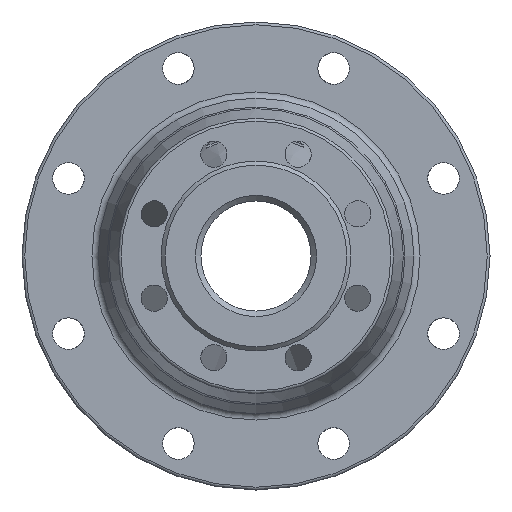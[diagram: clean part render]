
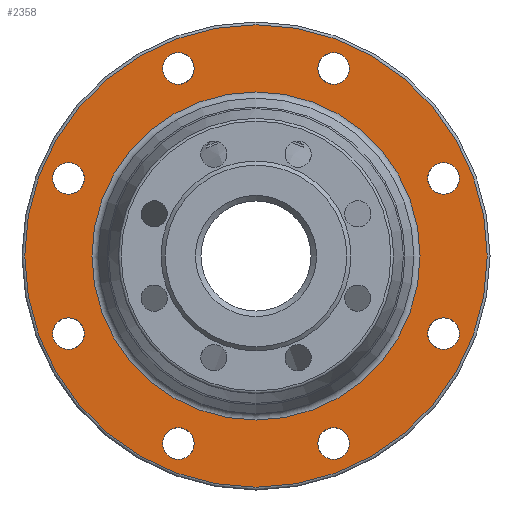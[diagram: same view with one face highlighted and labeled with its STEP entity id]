
A CAD part, left-side view. The second image highlights one B-rep face of the part: STEP entity #2358.
In plain terms, the highlighted planar face has unit normal (-1, 0, 0).
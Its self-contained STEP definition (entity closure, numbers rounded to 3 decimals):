
#40 = CARTESIAN_POINT ( 'NONE',  ( 280., -56.446, -136.272 ) ) ;
#162 = CARTESIAN_POINT ( 'NONE',  ( 280., -56.446, 124.772 ) ) ;
#166 = PLANE ( 'NONE',  #2549 ) ;
#198 = DIRECTION ( 'NONE',  ( 0., 0., -1. ) ) ;
#241 = EDGE_LOOP ( 'NONE', ( #1370 ) ) ;
#250 = CIRCLE ( 'NONE', #1450, 11.5 ) ;
#256 = CIRCLE ( 'NONE', #1838, 11.5 ) ;
#265 = ORIENTED_EDGE ( 'NONE', *, *, #2227, .T. ) ;
#266 = CARTESIAN_POINT ( 'NONE',  ( 280., 136.272, -56.446 ) ) ;
#297 = CIRCLE ( 'NONE', #2510, 11.5 ) ;
#311 = EDGE_LOOP ( 'NONE', ( #2274 ) ) ;
#316 = DIRECTION ( 'NONE',  ( 1., 0., 0. ) ) ;
#337 = FACE_BOUND ( 'NONE', #423, .T. ) ;
#358 = VERTEX_POINT ( 'NONE', #2360 ) ;
#362 = FACE_OUTER_BOUND ( 'NONE', #2254, .T. ) ;
#423 = EDGE_LOOP ( 'NONE', ( #2145 ) ) ;
#441 = EDGE_CURVE ( 'NONE', #2096, #2096, #2508, .T. ) ;
#451 = ORIENTED_EDGE ( 'NONE', *, *, #653, .T. ) ;
#488 = DIRECTION ( 'NONE',  ( 1., 0., 0. ) ) ;
#502 = CIRCLE ( 'NONE', #1191, 168. ) ;
#506 = AXIS2_PLACEMENT_3D ( 'NONE', #667, #1268, #1071 ) ;
#512 = DIRECTION ( 'NONE',  ( 1., 0., 0. ) ) ;
#524 = FACE_BOUND ( 'NONE', #241, .T. ) ;
#531 = VERTEX_POINT ( 'NONE', #1363 ) ;
#534 = FACE_BOUND ( 'NONE', #1210, .T. ) ;
#545 = ORIENTED_EDGE ( 'NONE', *, *, #2186, .T. ) ;
#568 = DIRECTION ( 'NONE',  ( 0., 0., -1. ) ) ;
#593 = CIRCLE ( 'NONE', #1623, 11.5 ) ;
#653 = EDGE_CURVE ( 'NONE', #1092, #1092, #1625, .T. ) ;
#667 = CARTESIAN_POINT ( 'NONE',  ( 280., 56.446, -136.272 ) ) ;
#684 = AXIS2_PLACEMENT_3D ( 'NONE', #2121, #512, #694 ) ;
#694 = DIRECTION ( 'NONE',  ( 0., 0., -1. ) ) ;
#741 = CARTESIAN_POINT ( 'NONE',  ( 280., 136.272, -67.946 ) ) ;
#803 = DIRECTION ( 'NONE',  ( 0., 0., -1. ) ) ;
#804 = DIRECTION ( 'NONE',  ( -1., 0., 0. ) ) ;
#808 = EDGE_LOOP ( 'NONE', ( #451 ) ) ;
#824 = EDGE_LOOP ( 'NONE', ( #1965 ) ) ;
#834 = CARTESIAN_POINT ( 'NONE',  ( 280., -136.272, 56.446 ) ) ;
#929 = VERTEX_POINT ( 'NONE', #1767 ) ;
#946 = FACE_BOUND ( 'NONE', #311, .T. ) ;
#954 = VERTEX_POINT ( 'NONE', #981 ) ;
#967 = CARTESIAN_POINT ( 'NONE',  ( 280., 56.446, 136.272 ) ) ;
#970 = DIRECTION ( 'NONE',  ( 1., 0., 0. ) ) ;
#981 = CARTESIAN_POINT ( 'NONE',  ( 280., -136.272, -67.946 ) ) ;
#1071 = DIRECTION ( 'NONE',  ( 0., 0., -1. ) ) ;
#1092 = VERTEX_POINT ( 'NONE', #1299 ) ;
#1140 = FACE_BOUND ( 'NONE', #808, .T. ) ;
#1180 = VERTEX_POINT ( 'NONE', #1969 ) ;
#1182 = FACE_BOUND ( 'NONE', #2079, .T. ) ;
#1191 = AXIS2_PLACEMENT_3D ( 'NONE', #1815, #804, #198 ) ;
#1201 = DIRECTION ( 'NONE',  ( 0., 0., -1. ) ) ;
#1210 = EDGE_LOOP ( 'NONE', ( #265 ) ) ;
#1218 = DIRECTION ( 'NONE',  ( 1., 0., 0. ) ) ;
#1243 = AXIS2_PLACEMENT_3D ( 'NONE', #834, #1218, #803 ) ;
#1268 = DIRECTION ( 'NONE',  ( 1., 0., 0. ) ) ;
#1299 = CARTESIAN_POINT ( 'NONE',  ( 280., 0., -119.185 ) ) ;
#1351 = EDGE_LOOP ( 'NONE', ( #2172 ) ) ;
#1363 = CARTESIAN_POINT ( 'NONE',  ( 280., -56.446, -147.772 ) ) ;
#1370 = ORIENTED_EDGE ( 'NONE', *, *, #2107, .T. ) ;
#1441 = DIRECTION ( 'NONE',  ( 1., 0., 0. ) ) ;
#1450 = AXIS2_PLACEMENT_3D ( 'NONE', #967, #316, #2359 ) ;
#1459 = DIRECTION ( 'NONE',  ( 0., 0., -1. ) ) ;
#1470 = EDGE_CURVE ( 'NONE', #929, #929, #250, .T. ) ;
#1540 = AXIS2_PLACEMENT_3D ( 'NONE', #40, #1441, #1459 ) ;
#1541 = AXIS2_PLACEMENT_3D ( 'NONE', #2589, #1590, #568 ) ;
#1570 = CARTESIAN_POINT ( 'NONE',  ( 280., 136.272, 44.946 ) ) ;
#1590 = DIRECTION ( 'NONE',  ( 1., 0., 0. ) ) ;
#1623 = AXIS2_PLACEMENT_3D ( 'NONE', #2156, #1759, #2600 ) ;
#1625 = CIRCLE ( 'NONE', #1541, 119.185 ) ;
#1695 = DIRECTION ( 'NONE',  ( 0., 0., -1. ) ) ;
#1704 = CARTESIAN_POINT ( 'NONE',  ( 280., -136.272, 44.946 ) ) ;
#1759 = DIRECTION ( 'NONE',  ( 1., 0., 0. ) ) ;
#1767 = CARTESIAN_POINT ( 'NONE',  ( 280., 56.446, 124.772 ) ) ;
#1815 = CARTESIAN_POINT ( 'NONE',  ( 280., 0., 0. ) ) ;
#1838 = AXIS2_PLACEMENT_3D ( 'NONE', #2515, #488, #1695 ) ;
#1884 = ORIENTED_EDGE ( 'NONE', *, *, #1910, .T. ) ;
#1910 = EDGE_CURVE ( 'NONE', #1180, #1180, #502, .T. ) ;
#1921 = EDGE_LOOP ( 'NONE', ( #2377 ) ) ;
#1952 = VERTEX_POINT ( 'NONE', #741 ) ;
#1958 = FACE_BOUND ( 'NONE', #1921, .T. ) ;
#1965 = ORIENTED_EDGE ( 'NONE', *, *, #2367, .T. ) ;
#1969 = CARTESIAN_POINT ( 'NONE',  ( 280., 0., -168. ) ) ;
#1983 = VERTEX_POINT ( 'NONE', #1570 ) ;
#1995 = VERTEX_POINT ( 'NONE', #162 ) ;
#2079 = EDGE_LOOP ( 'NONE', ( #545 ) ) ;
#2096 = VERTEX_POINT ( 'NONE', #1704 ) ;
#2107 = EDGE_CURVE ( 'NONE', #358, #358, #2131, .T. ) ;
#2111 = DIRECTION ( 'NONE',  ( 1., 0., 0. ) ) ;
#2121 = CARTESIAN_POINT ( 'NONE',  ( 280., -136.272, -56.446 ) ) ;
#2131 = CIRCLE ( 'NONE', #506, 11.5 ) ;
#2145 = ORIENTED_EDGE ( 'NONE', *, *, #1470, .T. ) ;
#2156 = CARTESIAN_POINT ( 'NONE',  ( 280., 136.272, 56.446 ) ) ;
#2172 = ORIENTED_EDGE ( 'NONE', *, *, #2301, .T. ) ;
#2186 = EDGE_CURVE ( 'NONE', #531, #531, #2588, .T. ) ;
#2206 = CARTESIAN_POINT ( 'NONE',  ( 280., 116., 0. ) ) ;
#2227 = EDGE_CURVE ( 'NONE', #1995, #1995, #256, .T. ) ;
#2254 = EDGE_LOOP ( 'NONE', ( #1884 ) ) ;
#2274 = ORIENTED_EDGE ( 'NONE', *, *, #441, .T. ) ;
#2301 = EDGE_CURVE ( 'NONE', #1952, #1952, #297, .T. ) ;
#2309 = EDGE_CURVE ( 'NONE', #954, #954, #2382, .T. ) ;
#2344 = DIRECTION ( 'NONE',  ( 0., 0., -1. ) ) ;
#2352 = FACE_BOUND ( 'NONE', #1351, .T. ) ;
#2358 = ADVANCED_FACE ( 'NONE', ( #1140, #362, #2352, #2391, #337, #534, #946, #1958, #1182, #524 ), #166, .F. ) ;
#2359 = DIRECTION ( 'NONE',  ( 0., 0., -1. ) ) ;
#2360 = CARTESIAN_POINT ( 'NONE',  ( 280., 56.446, -147.772 ) ) ;
#2367 = EDGE_CURVE ( 'NONE', #1983, #1983, #593, .T. ) ;
#2377 = ORIENTED_EDGE ( 'NONE', *, *, #2309, .T. ) ;
#2382 = CIRCLE ( 'NONE', #684, 11.5 ) ;
#2391 = FACE_BOUND ( 'NONE', #824, .T. ) ;
#2508 = CIRCLE ( 'NONE', #1243, 11.5 ) ;
#2510 = AXIS2_PLACEMENT_3D ( 'NONE', #266, #2111, #2344 ) ;
#2515 = CARTESIAN_POINT ( 'NONE',  ( 280., -56.446, 136.272 ) ) ;
#2549 = AXIS2_PLACEMENT_3D ( 'NONE', #2206, #970, #1201 ) ;
#2588 = CIRCLE ( 'NONE', #1540, 11.5 ) ;
#2589 = CARTESIAN_POINT ( 'NONE',  ( 280., 0., 0. ) ) ;
#2600 = DIRECTION ( 'NONE',  ( 0., 0., -1. ) ) ;
